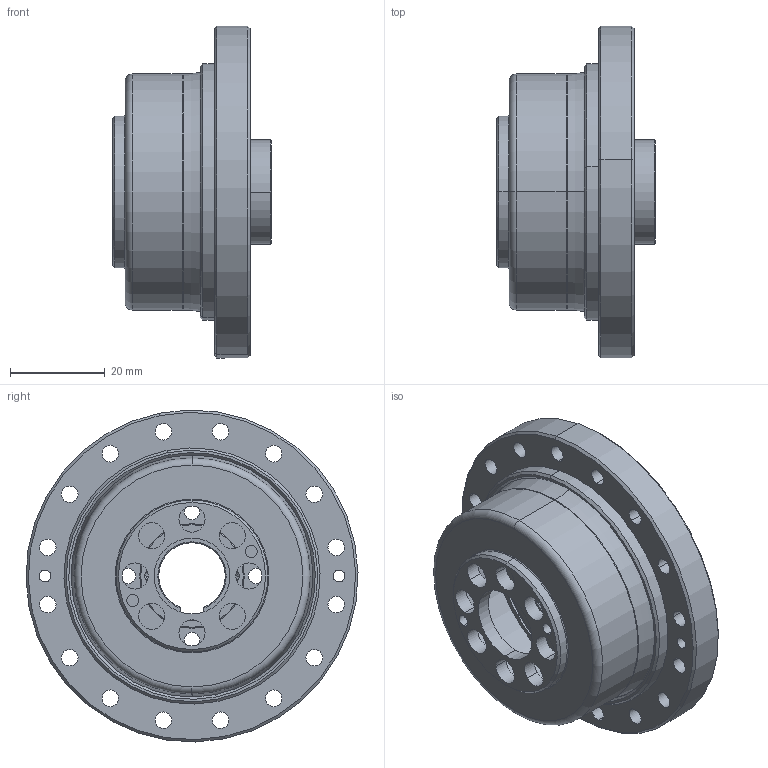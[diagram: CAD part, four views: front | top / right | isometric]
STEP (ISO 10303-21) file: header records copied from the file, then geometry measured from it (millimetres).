
FILE_DESCRIPTION (( 'STEP AP203' ), '1' );
FILE_NAME ('FCG-20-XXX-CJ.STEP', '2023-01-17T07:46:55', ( '微软用户' ), ( '微软中国' ), 'SwSTEP 2.0', 'SolidWorks 2016', '' );
FILE_SCHEMA (( 'CONFIG_CONTROL_DESIGN' ));
Length unit declared in the file: millimetre
Products named in the file (1): FCG-20-XXX-CJ
Bounding box: 33.5 x 69.98 x 69.98 mm (x, y, z)
Volume: 30882.9 mm3; surface area: 33961.7 mm2
Topology: 29 solids, 29 shells, 574 faces, 1523 edges, 965 vertices
Faces by surface type: cylinder 255, plane 159, torus 62, cone 52, sphere 46
Entity records: 17793 total; most frequent: CARTESIAN_POINT 3670, DIRECTION 3128, ORIENTED_EDGE 2808, EDGE_CURVE 1404, AXIS2_PLACEMENT_3D 1246, VERTEX_POINT 896, CIRCLE 671, EDGE_LOOP 658
